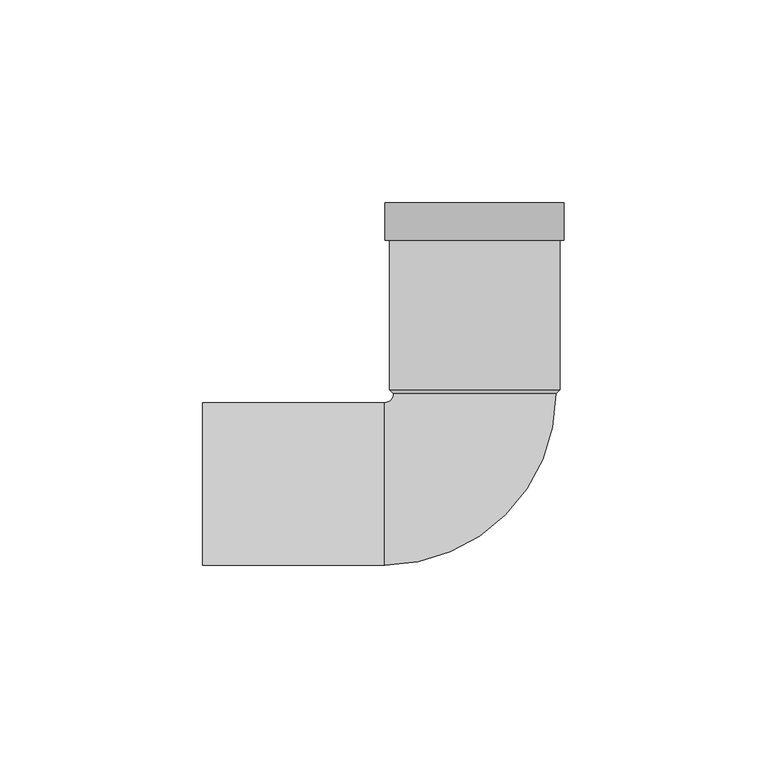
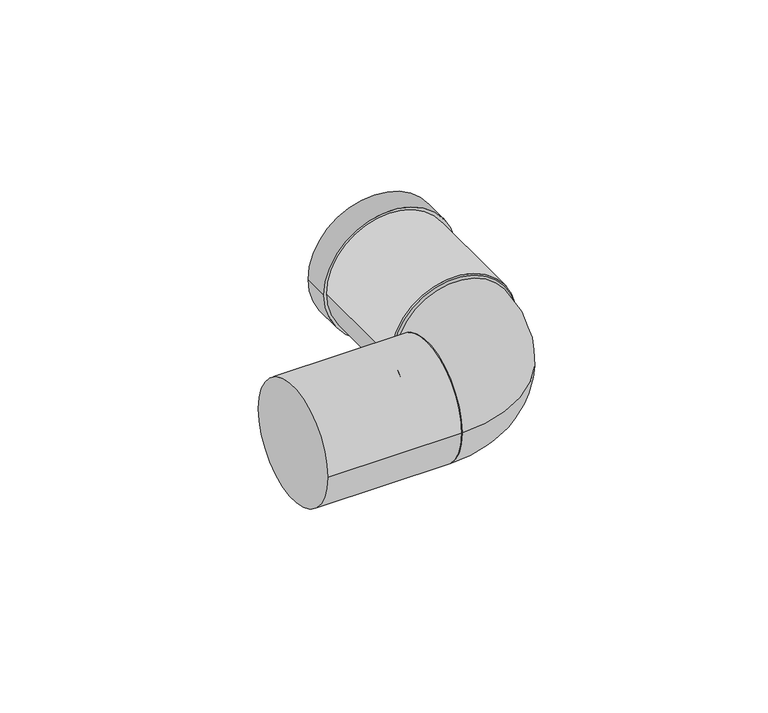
"""IFC4 building model written with IfcOpenShell, lengths in millimetres: pipe fitting geometry, Superdrain HT bend : Superdrain HT Bend."""

from ifc_helpers import new_model, si_unit, point, frame, origin, origin_2d, place, context, project, spatial, polyline, circle_curve, ellipse_curve, trimmed, segment, composite_curve, outline, extrude, source, transform, mapped, element, save
from ifc_brep_helpers import plane_surface, revolved_surface, advanced_brep


def pipe_fitting_bdeb5dc4(model_context):
    return source(origin(), model_context, "Body", "SolidModel", [
        advanced_brep(
        [(20.0, 22.2, 0.0), (-20.0, 22.2, 0.0), (-22.2, -20.0, 0.0), (-22.2, 20.0, 0.0)],
        [
            (0, 1, circle_curve(frame((0.0, 22.2, 0.0), z_axis=(0.0, 1.0, 0.0), x_axis=(-1.0, 0.0, 0.0)), 20.0)),
            (1, 0, circle_curve(frame((0.0, 22.2, 0.0), z_axis=(0.0, 1.0, 0.0), x_axis=(-1.0, 0.0, 0.0)), 20.0)),
            (2, 3, circle_curve(frame((-22.2, 0.0, 0.0), z_axis=(-1.0, 0.0, 0.0), x_axis=(0.0, 1.0, 0.0)), 20.0)),
            (3, 2, circle_curve(frame((-22.2, 0.0, 0.0), z_axis=(-1.0, 0.0, 0.0), x_axis=(0.0, 1.0, 0.0)), 20.0)),
            (3, 1, circle_curve(frame((-22.2, 22.2, 0.0), z_axis=(0.0, 0.0, 1.0), x_axis=(1.0, 0.0, 0.0)), 2.2)),
            (0, 2, circle_curve(frame((-22.2, 22.2, 0.0), z_axis=(0.0, 0.0, -1.0), x_axis=(1.0, 0.0, 0.0)), 42.2)),
        ],
        [
            plane_surface(frame((0.0, 22.2, 0.0), z_axis=(0.0, 1.0, 0.0), x_axis=(0.0, 0.0, -1.0))),
            plane_surface(frame((-22.2, 0.0, 0.0), z_axis=(-1.0, 0.0, 0.0), x_axis=(0.0, 0.0, -1.0))),
            revolved_surface(trimmed(ellipse_curve(frame((0.0, 22.2, 0.0), z_axis=(0.0, -1.0, 0.0), x_axis=(-1.0, 0.0, 0.0)), 20.0, 20.0), [point((-20.0, 22.2, 0.0))], [point((20.0, 22.2, 0.0))], True, "CARTESIAN"), (-22.2, 22.2, 0.0), (0.0, 0.0, 1.0)),
            revolved_surface(trimmed(ellipse_curve(frame((0.0, 22.2, 0.0), z_axis=(0.0, -1.0, 0.0), x_axis=(-1.0, 0.0, 0.0)), 20.0, 20.0), [point((20.0, 22.2, 0.0))], [point((-20.0, 22.2, 0.0))], True, "CARTESIAN"), (-22.2, 22.2, 0.0), (0.0, 0.0, 1.0)),
        ],
        [
            (0, [[1, 2]]),
            (1, [[3, 4]]),
            (2, [[-4, 5, -1, 6]]),
            (3, [[-3, -6, -2, -5]]),
        ],
    ),
        extrude(outline(composite_curve([segment(trimmed(circle_curve(origin_2d(), 21.0), [point((0.0, 21.0))], [point((0.0, -21.0))], False, "CARTESIAN"), True, "CONTINUOUS"), segment(trimmed(circle_curve(origin_2d(), 21.0), [point((0.0, -21.0))], [point((0.0, 21.0))], False, "CARTESIAN"), True, "CONTINUOUS")], self_intersect=False), holes=[composite_curve([segment(trimmed(circle_curve(origin_2d(), 20.0), [point((0.0, 20.0))], [point((0.0, -20.0))], True, "CARTESIAN"), True, "CONTINUOUS"), segment(trimmed(circle_curve(origin_2d(), 20.0), [point((0.0, -20.0))], [point((0.0, 20.0))], True, "CARTESIAN"), True, "CONTINUOUS")], self_intersect=False)]), frame((0.0, 23.2, 0.0), z_axis=(0.0, 1.0, 0.0), x_axis=(0.0, 0.0, 1.0)), (0.0, 0.0, 1.0), 46.0),
        extrude(outline(composite_curve([segment(trimmed(circle_curve(origin_2d(), 22.05), [point((0.0, -22.05))], [point((0.0, 22.05))], False, "CARTESIAN"), True, "CONTINUOUS"), segment(trimmed(circle_curve(origin_2d(), 22.05), [point((0.0, 22.05))], [point((0.0, -22.05))], False, "CARTESIAN"), True, "CONTINUOUS")], self_intersect=False), holes=[composite_curve([segment(trimmed(circle_curve(origin_2d(), 20.0), [point((0.0, -20.0))], [point((0.0, 20.0))], True, "CARTESIAN"), True, "CONTINUOUS"), segment(trimmed(circle_curve(origin_2d(), 20.0), [point((0.0, 20.0))], [point((0.0, -20.0))], True, "CARTESIAN"), True, "CONTINUOUS")], self_intersect=False)]), frame((0.0, 60.0, 0.0), z_axis=(0.0, 1.0, 0.0), x_axis=(0.0, 0.0, 1.0)), (0.0, 0.0, 1.0), 9.2),
        advanced_brep(
        [(21.0, 23.2, 0.0), (-21.0, 23.2, 0.0), (20.0, 22.2, 0.0), (-20.0, 22.2, 0.0)],
        [
            (0, 1, circle_curve(frame((0.0, 23.2, 0.0), z_axis=(0.0, 1.0, 0.0), x_axis=(1.0, 0.0, 0.0)), 21.0)),
            (1, 0, circle_curve(frame((0.0, 23.2, 0.0), z_axis=(0.0, 1.0, 0.0), x_axis=(-1.0, 0.0, 0.0)), 21.0)),
            (2, 3, circle_curve(frame((0.0, 22.2, 0.0), z_axis=(0.0, -1.0, 0.0), x_axis=(-1.0, 0.0, 0.0)), 20.0)),
            (3, 2, circle_curve(frame((0.0, 22.2, 0.0), z_axis=(0.0, -1.0, 0.0), x_axis=(1.0, 0.0, 0.0)), 20.0)),
            (3, 1),
            (0, 2),
        ],
        [
            plane_surface(frame((0.0, 23.2, 0.0), z_axis=(0.0, 1.0, 0.0), x_axis=(0.0, 0.0, -1.0))),
            plane_surface(frame((0.0, 22.2, 0.0), z_axis=(0.0, -1.0, 0.0), x_axis=(0.0, 0.0, -1.0))),
            revolved_surface(polyline([(-20.0, 22.2, 0.0), (-21.0, 23.2, 0.0)]), (0.0, 2.2, 0.0), (0.0, 1.0, 0.0)),
            revolved_surface(polyline([(20.0, 22.2, 0.0), (21.0, 23.2, 0.0)]), (0.0, 2.2, 0.0), (0.0, 1.0, 0.0)),
        ],
        [
            (0, [[1, 2]]),
            (1, [[3, 4]]),
            (2, [[-4, 5, -1, 6]]),
            (3, [[-3, -6, -2, -5]]),
        ],
    ),
        extrude(outline(composite_curve([segment(trimmed(circle_curve(origin_2d(), 20.0), [point((-20.0, 0.0))], [point((20.0, 0.0))], False, "CARTESIAN"), True, "CONTINUOUS"), segment(trimmed(circle_curve(origin_2d(), 20.0), [point((20.0, 0.0))], [point((-20.0, 0.0))], False, "CARTESIAN"), True, "CONTINUOUS")], self_intersect=False)), frame((-67.0, 0.0, 0.0), z_axis=(1.0, 0.0, 0.0), x_axis=(0.0, 1.0, 0.0)), (0.0, 0.0, 1.0), 44.8),
    ])


if __name__ == "__main__":
    model = new_model("IFC4")
    model_context = context("Model", 3, world=origin())
    ifc_project = project(units=[si_unit("LENGTHUNIT", "METRE", prefix="MILLI")], contexts=[model_context])
    site = spatial("IfcSite", under=ifc_project)
    building = spatial("IfcBuilding", under=site)
    placement = place(None, origin())
    pipe_fitting_shape = pipe_fitting_bdeb5dc4(model_context)
    element("IfcPipeFitting", 1, ObjectType="Superdrain HT bend : Superdrain HT Bend", at=placement, inside=building, context=model_context, shape_type="MappedRepresentation", body=[
        mapped(pipe_fitting_shape, transform((0.0, 0.0, 0.0), x_axis=(1.0, 0.0, 0.0), y_axis=(0.0, 1.0, 0.0), z_axis=(0.0, 0.0, 1.0))),
    ])
    save(model, "model.ifc")
